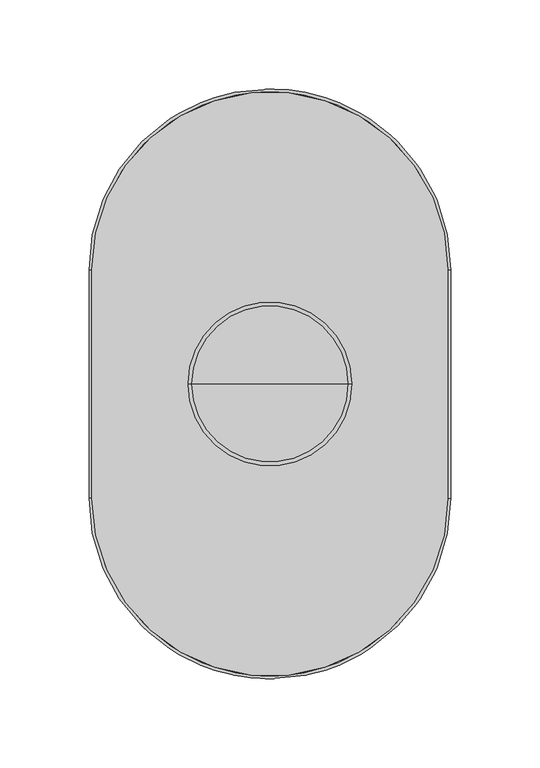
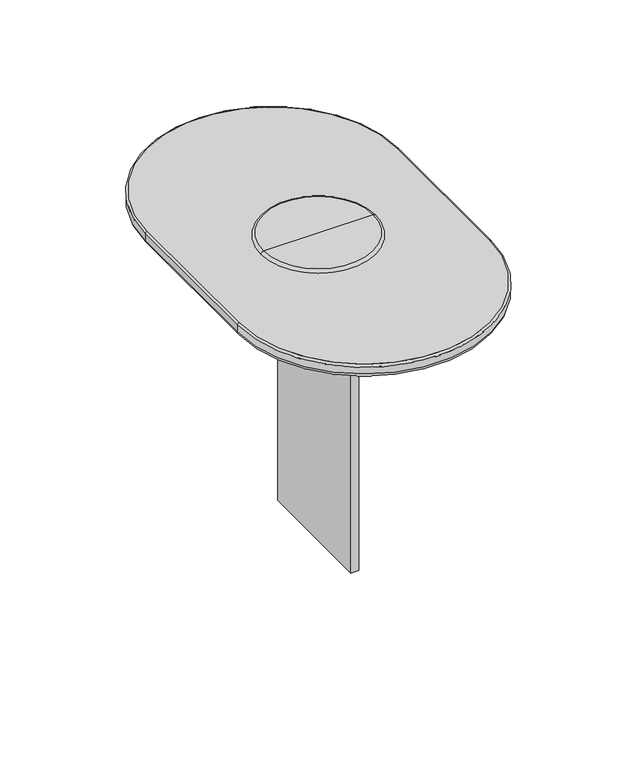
"""IFC4 building model written with IfcOpenShell, lengths in millimetres: furniture geometry, Stylex - Luna - Tray Table : Wireless Charging Tray."""

from ifc_helpers import new_model, si_unit, point, frame, origin, place, context, project, spatial, polyline, circle_curve, ellipse_curve, trimmed, outline, extrude, source, transform, mapped, element, save
from ifc_brep_helpers import plane_surface, cylinder_surface, revolved_surface, advanced_brep


def furniture_2011433c(model_context):
    return source(origin(), model_context, "Body", "SolidModel", [
        advanced_brep(
        [(-100.036494, 64.0759267, 558.7828813), (-100.036494, -64.0759267, 558.7828813), (100.036494, -64.0759267, 558.7828813), (100.036494, 64.0759267, 558.7828813), (-50.5591564, 64.0759267, 533.4113535), (50.5591564, 64.0759267, 533.4113535), (50.5591564, -64.0759267, 533.4113535), (-50.5591564, -64.0759267, 533.4113535), (101.623994, 64.0759267, 551.6314465), (-101.623994, 64.0759267, 551.6314465), (-101.623994, 64.0759267, 557.2125), (101.623994, 64.0759267, 557.2125), (99.3470108, 64.0759267, 548.25568), (-99.3470108, 64.0759267, 548.25568), (73.7756644, 64.0759267, 537.9241855), (-73.7756644, 64.0759267, 537.9241855), (101.623994, -64.0759267, 557.2125), (101.623994, -64.0759267, 551.6314465), (99.3470108, -64.0759267, 548.25568), (73.7756644, -64.0759267, 537.9241855), (-101.623994, -64.0759267, 557.2125), (-101.623994, -64.0759267, 551.6314465), (-99.3470108, -64.0759267, 548.25568), (-73.7756644, -64.0759267, 537.9241855)],
        [
            (0, 1),
            (1, 2, circle_curve(frame((0.0, -64.0759267, 558.7828813), z_axis=(0.0, 0.0, 1.0), x_axis=(1.0, 0.0, 0.0)), 100.036494)),
            (2, 3),
            (3, 0, circle_curve(frame((0.0, 64.0759267, 558.7828813), z_axis=(0.0, 0.0, 1.0), x_axis=(-1.0, 0.0, 0.0)), 100.036494)),
            (4, 5, circle_curve(frame((0.0, 64.0759267, 533.4113535), z_axis=(0.0, 0.0, -1.0), x_axis=(-1.0, 0.0, 0.0)), 50.5591564)),
            (5, 6),
            (6, 7, circle_curve(frame((0.0, -64.0759267, 533.4113535), z_axis=(0.0, 0.0, -1.0), x_axis=(1.0, 0.0, 0.0)), 50.5591564)),
            (7, 4),
            (8, 9, circle_curve(frame((0.0, 64.0759267, 551.6314465), z_axis=(0.0, 0.0, 1.0), x_axis=(-1.0, 0.0, 0.0)), 101.623994)),
            (9, 10),
            (10, 11, circle_curve(frame((0.0, 64.0759267, 557.2125), z_axis=(0.0, 0.0, -1.0), x_axis=(-1.0, 0.0, 0.0)), 101.623994)),
            (11, 8),
            (8, 12, circle_curve(frame((97.9831126, 64.0759267, 551.6314465), z_axis=(0.0, 1.0, 0.0), x_axis=(-1.0, 0.0, 0.0)), 3.6408815)),
            (12, 13, circle_curve(frame((0.0, 64.0759267, 548.25568), z_axis=(0.0, 0.0, 1.0), x_axis=(-1.0, 0.0, 0.0)), 99.3470108)),
            (13, 9, circle_curve(frame((-97.9831126, 64.0759267, 551.6314465), z_axis=(0.0, 1.0, 0.0), x_axis=(1.0, 0.0, 0.0)), 3.6408815)),
            (12, 14),
            (14, 15, circle_curve(frame((0.0, 64.0759267, 537.9241855), z_axis=(0.0, 0.0, 1.0), x_axis=(-1.0, 0.0, 0.0)), 73.7756644)),
            (15, 13),
            (14, 5, circle_curve(frame((50.5591564, 64.0759267, 595.3870594), z_axis=(0.0, 1.0, 0.0), x_axis=(-1.0, 0.0, 0.0)), 61.9757059)),
            (4, 15, circle_curve(frame((-50.5591564, 64.0759267, 595.3870594), z_axis=(0.0, 1.0, 0.0), x_axis=(1.0, 0.0, 0.0)), 61.9757059)),
            (11, 16),
            (16, 17),
            (17, 8),
            (17, 18, circle_curve(frame((97.9831126, -64.0759267, 551.6314465), z_axis=(0.0, 1.0, 0.0), x_axis=(-1.0, 0.0, 0.0)), 3.6408815)),
            (18, 12),
            (18, 19),
            (19, 14),
            (19, 6, circle_curve(frame((50.5591564, -64.0759267, 595.3870594), z_axis=(0.0, 1.0, 0.0), x_axis=(-1.0, 0.0, 0.0)), 61.9757059)),
            (16, 20, circle_curve(frame((0.0, -64.0759267, 557.2125), z_axis=(0.0, 0.0, -1.0), x_axis=(1.0, 0.0, 0.0)), 101.623994)),
            (20, 21),
            (21, 17, circle_curve(frame((0.0, -64.0759267, 551.6314465), z_axis=(0.0, 0.0, 1.0), x_axis=(1.0, 0.0, 0.0)), 101.623994)),
            (21, 22, circle_curve(frame((-97.9831126, -64.0759267, 551.6314465), z_axis=(0.0, -1.0, 0.0), x_axis=(1.0, 0.0, 0.0)), 3.6408815)),
            (22, 18, circle_curve(frame((0.0, -64.0759267, 548.25568), z_axis=(0.0, 0.0, 1.0), x_axis=(1.0, 0.0, 0.0)), 99.3470108)),
            (22, 23),
            (23, 19, circle_curve(frame((0.0, -64.0759267, 537.9241855), z_axis=(0.0, 0.0, 1.0), x_axis=(1.0, 0.0, 0.0)), 73.7756644)),
            (23, 7, circle_curve(frame((-50.5591564, -64.0759267, 595.3870594), z_axis=(0.0, -1.0, 0.0), x_axis=(1.0, 0.0, 0.0)), 61.9757059)),
            (9, 21),
            (20, 10),
            (13, 22),
            (15, 23),
            (10, 0, circle_curve(frame((-100.036494, 64.0759267, 557.2125), z_axis=(0.0, 1.0, 0.0), x_axis=(1.0, 0.0, 0.0)), 1.5875)),
            (3, 11, circle_curve(frame((100.036494, 64.0759267, 557.2125), z_axis=(0.0, 1.0, 0.0), x_axis=(-1.0, 0.0, 0.0)), 1.5875)),
            (2, 16, circle_curve(frame((100.036494, -64.0759267, 557.2125), z_axis=(0.0, 1.0, 0.0), x_axis=(-1.0, 0.0, 0.0)), 1.5875)),
            (1, 20, circle_curve(frame((-100.036494, -64.0759267, 557.2125), z_axis=(0.0, -1.0, 0.0), x_axis=(1.0, 0.0, 0.0)), 1.5875)),
        ],
        [
            plane_surface(frame((-43.8236176, 64.0759267, 558.7828813), z_axis=(0.0, 0.0, 1.0), x_axis=(0.0, -1.0, 0.0))),
            plane_surface(frame((-43.8236176, 64.0759267, 533.4113535), z_axis=(0.0, 0.0, -1.0), x_axis=(0.0, 1.0, 0.0))),
            cylinder_surface(frame((0.0, 64.0759267, 304.8), z_axis=(0.0, 0.0, -1.0), x_axis=(-1.0, 0.0, 0.0)), 101.623994),
            revolved_surface(trimmed(ellipse_curve(frame((-97.9831126, 64.0759267, 551.6314465), z_axis=(0.0, -1.0, 0.0), x_axis=(1.0, 0.0, 0.0)), 3.6408815, 3.6408815), [point((-101.623994, 64.0759267, 551.6314465))], [point((-99.3470108, 64.0759267, 548.25568))], True, "CARTESIAN"), (0.0, 64.0759267, 304.8), (0.0, 0.0, -1.0)),
            revolved_surface(polyline([(-99.3470108, 64.0759267, 548.25568), (-73.7756644, 64.0759267, 537.9241855)]), (0.0, 64.0759267, 304.8), (0.0, 0.0, -1.0)),
            revolved_surface(trimmed(ellipse_curve(frame((-50.5591564, 64.0759267, 595.3870594), z_axis=(0.0, -1.0, 0.0), x_axis=(1.0, 0.0, 0.0)), 61.9757059, 61.9757059), [point((-73.7756644, 64.0759267, 537.9241855))], [point((-50.5591564, 64.0759267, 533.4113535))], True, "CARTESIAN"), (0.0, 64.0759267, 304.8), (0.0, 0.0, -1.0)),
            plane_surface(frame((101.623994, 64.0759267, 557.2125), z_axis=(1.0, 0.0, 0.0), x_axis=(0.0, -1.0, 0.0))),
            cylinder_surface(frame((97.9831126, 64.0759267, 551.6314465), z_axis=(0.0, 1.0, 0.0), x_axis=(-1.0, 0.0, 0.0)), 3.6408815),
            plane_surface(frame((99.3470108, 64.0759267, 548.25568), z_axis=(0.37460659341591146, 0.0, -0.9271838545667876), x_axis=(0.0, -1.0, 0.0))),
            cylinder_surface(frame((50.5591564, 64.0759267, 595.3870594), z_axis=(0.0, 1.0, 0.0), x_axis=(-1.0, 0.0, 0.0)), 61.9757059),
            cylinder_surface(frame((0.0, -64.0759267, 304.8), z_axis=(0.0, 0.0, -1.0), x_axis=(1.0, 0.0, 0.0)), 101.623994),
            revolved_surface(trimmed(ellipse_curve(frame((97.9831126, -64.0759267, 551.6314465), z_axis=(0.0, 1.0, 0.0), x_axis=(-1.0, 0.0, 0.0)), 3.6408815, 3.6408815), [point((101.623994, -64.0759267, 551.6314465))], [point((99.3470108, -64.0759267, 548.25568))], True, "CARTESIAN"), (0.0, -64.0759267, 304.8), (0.0, 0.0, -1.0)),
            revolved_surface(polyline([(99.3470108, -64.0759267, 548.25568), (73.7756644, -64.0759267, 537.9241855)]), (0.0, -64.0759267, 304.8), (0.0, 0.0, -1.0)),
            revolved_surface(trimmed(ellipse_curve(frame((50.5591564, -64.0759267, 595.3870594), z_axis=(0.0, 1.0, 0.0), x_axis=(-1.0, 0.0, 0.0)), 61.9757059, 61.9757059), [point((73.7756644, -64.0759267, 537.9241855))], [point((50.5591564, -64.0759267, 533.4113535))], True, "CARTESIAN"), (0.0, -64.0759267, 304.8), (0.0, 0.0, -1.0)),
            plane_surface(frame((-101.623994, -64.0759267, 557.2125), z_axis=(-1.0, 0.0, 0.0), x_axis=(0.0, 1.0, 0.0))),
            cylinder_surface(frame((-97.9831126, -64.0759267, 551.6314465), z_axis=(0.0, -1.0, 0.0), x_axis=(1.0, 0.0, 0.0)), 3.6408815),
            plane_surface(frame((-99.3470108, -64.0759267, 548.25568), z_axis=(-0.37460659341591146, 0.0, -0.9271838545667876), x_axis=(0.0, 1.0, 0.0))),
            cylinder_surface(frame((-50.5591564, -64.0759267, 595.3870594), z_axis=(0.0, -1.0, 0.0), x_axis=(1.0, 0.0, 0.0)), 61.9757059),
            revolved_surface(trimmed(ellipse_curve(frame((-100.036494, 64.0759267, 557.2125), z_axis=(0.0, -1.0, 0.0), x_axis=(1.0, 0.0, 0.0)), 1.5875, 1.5875), [point((-100.036494, 64.0759267, 558.8))], [point((-101.623994, 64.0759267, 557.2125))], True, "CARTESIAN"), (0.0, 64.0759267, 304.8), (0.0, 0.0, -1.0)),
            cylinder_surface(frame((100.036494, 64.0759267, 557.2125), z_axis=(0.0, 1.0, 0.0), x_axis=(-1.0, 0.0, 0.0)), 1.5875),
            revolved_surface(trimmed(ellipse_curve(frame((100.036494, -64.0759267, 557.2125), z_axis=(0.0, 1.0, 0.0), x_axis=(-1.0, 0.0, 0.0)), 1.5875, 1.5875), [point((100.036494, -64.0759267, 558.8))], [point((101.623994, -64.0759267, 557.2125))], True, "CARTESIAN"), (0.0, -64.0759267, 304.8), (0.0, 0.0, -1.0)),
            cylinder_surface(frame((-100.036494, -64.0759267, 557.2125), z_axis=(0.0, -1.0, 0.0), x_axis=(1.0, 0.0, 0.0)), 1.5875),
        ],
        [
            (0, [[1, 2, 3, 4]]),
            (1, [[5, 6, 7, 8]]),
            (2, [[9, 10, 11, 12]]),
            (3, [[-9, 13, 14, 15]]),
            (4, [[-14, 16, 17, 18]]),
            (5, [[-17, 19, -5, 20]]),
            (6, [[-12, 21, 22, 23]]),
            (7, [[-13, -23, 24, 25]]),
            (8, [[-16, -25, 26, 27]]),
            (9, [[-19, -27, 28, -6]]),
            (10, [[-22, 29, 30, 31]]),
            (11, [[-24, -31, 32, 33]]),
            (12, [[-26, -33, 34, 35]]),
            (13, [[-28, -35, 36, -7]]),
            (14, [[-10, 37, -30, 38]]),
            (15, [[-15, 39, -32, -37]]),
            (16, [[-18, 40, -34, -39]]),
            (17, [[-20, -8, -36, -40]]),
            (18, [[-11, 41, -4, 42]]),
            (19, [[-21, -42, -3, 43]]),
            (20, [[-29, -43, -2, 44]]),
            (21, [[-38, -44, -1, -41]]),
        ],
    ),
        advanced_brep(
        [(43.7929391, 0.0, 561.2272927), (-43.7929391, 0.0, 561.2272927), (0.0, 0.0, 561.2272927), (46.1017389, 0.0, 558.7828813), (-46.1017389, 0.0, 558.7828813), (0.0, 0.0, 558.7828813)],
        [
            (0, 1, circle_curve(frame((0.0, 0.0, 561.2272927), z_axis=(0.0, 0.0, 1.0), x_axis=(-1.0, 0.0, 0.0)), 43.7929391)),
            (1, 2),
            (2, 0),
            (1, 0, circle_curve(frame((0.0, 0.0, 561.2272927), z_axis=(0.0, 0.0, 1.0), x_axis=(-1.0, 0.0, 0.0)), 43.7929391)),
            (3, 4, circle_curve(frame((0.0, 0.0, 558.7828813), z_axis=(0.0, 0.0, 1.0), x_axis=(-1.0, 0.0, 0.0)), 46.1017389)),
            (4, 1, circle_curve(frame((-43.7929391, 0.0, 558.9147312), z_axis=(0.0, 1.0, 0.0), x_axis=(1.0, 0.0, 0.0)), 2.3125615)),
            (0, 3, circle_curve(frame((43.7929391, 0.0, 558.9147312), z_axis=(0.0, 1.0, 0.0), x_axis=(-1.0, 0.0, 0.0)), 2.3125615)),
            (4, 3, circle_curve(frame((0.0, 0.0, 558.7828813), z_axis=(0.0, 0.0, 1.0), x_axis=(-1.0, 0.0, 0.0)), 46.1017389)),
            (5, 4),
            (3, 5),
        ],
        [
            plane_surface(frame((0.0, 0.0, 561.2272927), z_axis=(0.0, 0.0, 1.0), x_axis=(-1.0, 0.0, 0.0))),
            revolved_surface(trimmed(ellipse_curve(frame((-43.7929391, 0.0, 558.9147312), z_axis=(0.0, -1.0, 0.0), x_axis=(1.0, 0.0, 0.0)), 2.3125615, 2.3125615), [point((-43.7929391, 0.0, 561.2272927))], [point((-46.1017389, 0.0, 558.7828813))], True, "CARTESIAN"), (0.0, 0.0, 2726.2288111), (0.0, 0.0, -1.0)),
            plane_surface(frame((0.0, 0.0, 558.7828813), z_axis=(0.0, 0.0, -1.0), x_axis=(-1.0, 0.0, 0.0))),
        ],
        [
            (0, [[1, 2, 3]]),
            (0, [[4, -3, -2]]),
            (1, [[5, 6, -1, 7]]),
            (1, [[8, -7, -4, -6]]),
            (2, [[9, -5, 10]]),
            (2, [[-10, -8, -9]]),
        ],
    ),
        extrude(outline(polyline([(3.1705626, -50.7927911), (-3.1705626, -50.7927911), (-3.1705626, 50.8023254), (3.1705626, 50.8023254), (3.1705626, -50.7927911)])), frame((0.0, 0.0, 304.8), z_axis=(0.0, 0.0, 1.0), x_axis=(1.0, 0.0, 0.0)), (0.0, 0.0, 1.0), 225.4262624),
        extrude(outline(polyline([(50.9496786, -50.7927911), (-50.823994, -50.7927911), (-50.823994, 50.8023254), (50.9496786, 50.8023254), (50.9496786, -50.7927911)])), frame((0.0, 0.0, 530.2262624), z_axis=(0.0, 0.0, 1.0), x_axis=(1.0, 0.0, 0.0)), (0.0, 0.0, 1.0), 3.1850911),
    ])


if __name__ == "__main__":
    model = new_model("IFC4")
    model_context = context("Model", 3, world=origin())
    ifc_project = project(units=[si_unit("LENGTHUNIT", "METRE", prefix="MILLI")], contexts=[model_context])
    site = spatial("IfcSite", under=ifc_project)
    building = spatial("IfcBuilding", under=site)
    placement = place(None, origin())
    furniture_shape = furniture_2011433c(model_context)
    element("IfcFurniture", 1, ObjectType="Stylex - Luna - Tray Table : Wireless Charging Tray", at=placement, inside=building, context=model_context, shape_type="MappedRepresentation", body=[
        mapped(furniture_shape, transform((0.0, 0.0, 0.0), x_axis=(1.0, 0.0, 0.0), y_axis=(0.0, 1.0, 0.0), z_axis=(0.0, 0.0, 1.0))),
    ])
    save(model, "model.ifc")
